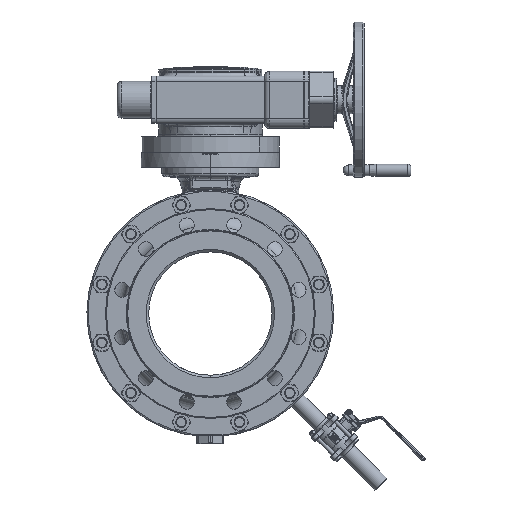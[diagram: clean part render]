
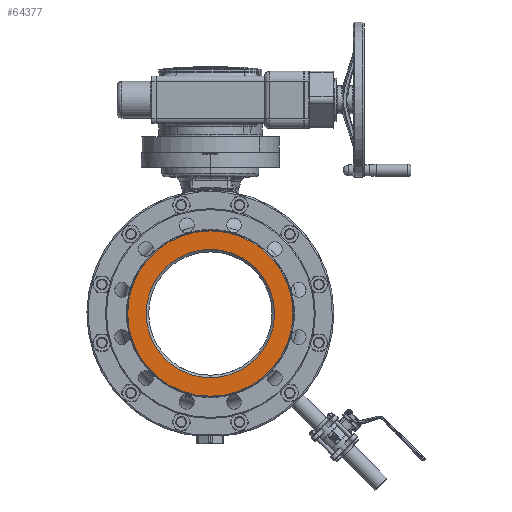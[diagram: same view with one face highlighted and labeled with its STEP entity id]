
A CAD part, left-side view. The second image highlights one B-rep face of the part: STEP entity #64377.
In plain terms, the highlighted planar face has unit normal (-1, 0, 0).
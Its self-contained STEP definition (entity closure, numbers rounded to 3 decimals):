
#10051=CARTESIAN_POINT('',(-266.5,0.,0.));
#10052=DIRECTION('',(-1.,0.,0.));
#10053=DIRECTION('',(0.,0.,1.));
#10054=AXIS2_PLACEMENT_3D('',#10051,#10052,#10053);
#10056=CARTESIAN_POINT('',(-266.5,0.,0.));
#10057=DIRECTION('',(1.,0.,0.));
#10058=DIRECTION('',(0.,0.,1.));
#10059=AXIS2_PLACEMENT_3D('',#10056,#10057,#10058);
#10061=CARTESIAN_POINT('',(-266.5,0.,0.));
#10062=DIRECTION('',(1.,0.,0.));
#10063=DIRECTION('',(0.,0.,1.));
#10064=AXIS2_PLACEMENT_3D('',#10061,#10062,#10063);
#10088=CARTESIAN_POINT('',(-266.5,0.,0.));
#10089=DIRECTION('',(-1.,0.,0.));
#10090=DIRECTION('',(0.,0.,1.));
#10091=AXIS2_PLACEMENT_3D('',#10088,#10089,#10090);
#47248=CARTESIAN_POINT('',(-266.5,0.,130.));
#47249=CARTESIAN_POINT('',(-266.5,0.,-130.));
#47250=VERTEX_POINT('',#47248);
#47251=VERTEX_POINT('',#47249);
#47360=CARTESIAN_POINT('',(-266.5,0.,167.5));
#47361=CARTESIAN_POINT('',(-266.5,0.,-167.5));
#47362=VERTEX_POINT('',#47360);
#47363=VERTEX_POINT('',#47361);
#64362=CARTESIAN_POINT('',(-266.5,0.,0.));
#64363=DIRECTION('',(1.,0.,0.));
#64364=DIRECTION('',(0.,0.,1.));
#64365=AXIS2_PLACEMENT_3D('',#64362,#64363,#64364);
#64366=PLANE('',#64365);
#64367=ORIENTED_EDGE('',*,*,#64342,.F.);
#64368=ORIENTED_EDGE('',*,*,#64356,.T.);
#64369=EDGE_LOOP('',(#64367,#64368));
#64370=FACE_OUTER_BOUND('',#64369,.F.);
#64372=ORIENTED_EDGE('',*,*,#64371,.F.);
#64374=ORIENTED_EDGE('',*,*,#64373,.T.);
#64375=EDGE_LOOP('',(#64372,#64374));
#64376=FACE_BOUND('',#64375,.F.);
#64377=ADVANCED_FACE('',(#64370,#64376),#64366,.F.);
#10055=CIRCLE('',#10054,167.5);
#10060=CIRCLE('',#10059,167.5);
#10065=CIRCLE('',#10064,130.);
#10092=CIRCLE('',#10091,130.);
#64342=EDGE_CURVE('',#47362,#47363,#10055,.T.);
#64356=EDGE_CURVE('',#47362,#47363,#10060,.T.);
#64371=EDGE_CURVE('',#47250,#47251,#10065,.T.);
#64373=EDGE_CURVE('',#47250,#47251,#10092,.T.);
